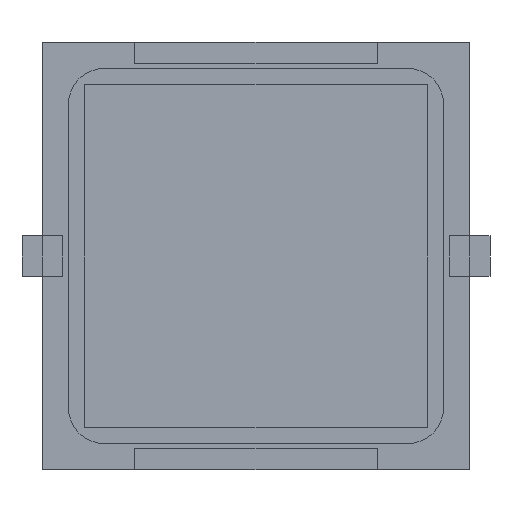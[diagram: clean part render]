
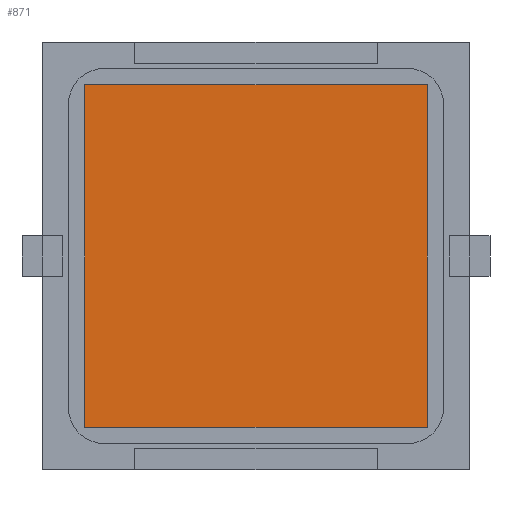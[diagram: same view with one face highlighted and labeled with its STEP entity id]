
A CAD part, front view. The second image highlights one B-rep face of the part: STEP entity #871.
In plain terms, the highlighted planar face has unit normal (0, -1, 0).
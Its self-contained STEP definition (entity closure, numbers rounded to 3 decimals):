
#113 = LINE ( 'NONE', #483, #2180 ) ;
#167 = EDGE_CURVE ( 'NONE', #1344, #2905, #2559, .T. ) ;
#186 = VERTEX_POINT ( 'NONE', #3492 ) ;
#293 = DIRECTION ( 'NONE',  ( 0., 0., 1. ) ) ;
#372 = EDGE_CURVE ( 'NONE', #2905, #1324, #2947, .T. ) ;
#433 = PLANE ( 'NONE',  #1383 ) ;
#483 = CARTESIAN_POINT ( 'NONE',  ( 8.5, -0.1, -8.5 ) ) ;
#572 = VECTOR ( 'NONE', #1731, 1000. ) ;
#871 = ADVANCED_FACE ( 'NONE', ( #4225 ), #433, .F. ) ;
#1000 = ORIENTED_EDGE ( 'NONE', *, *, #372, .F. ) ;
#1096 = ORIENTED_EDGE ( 'NONE', *, *, #167, .F. ) ;
#1175 = CARTESIAN_POINT ( 'NONE',  ( -8.5, -0.1, -8.5 ) ) ;
#1324 = VERTEX_POINT ( 'NONE', #1935 ) ;
#1331 = DIRECTION ( 'NONE',  ( 0., 1., 0. ) ) ;
#1344 = VERTEX_POINT ( 'NONE', #2631 ) ;
#1383 = AXIS2_PLACEMENT_3D ( 'NONE', #3242, #1331, #293 ) ;
#1437 = EDGE_CURVE ( 'NONE', #186, #1344, #113, .T. ) ;
#1527 = ORIENTED_EDGE ( 'NONE', *, *, #1856, .F. ) ;
#1627 = DIRECTION ( 'NONE',  ( 0., 0., -1. ) ) ;
#1731 = DIRECTION ( 'NONE',  ( 0., 0., 1. ) ) ;
#1744 = ORIENTED_EDGE ( 'NONE', *, *, #1437, .F. ) ;
#1781 = CARTESIAN_POINT ( 'NONE',  ( -8.5, -0.1, -8.5 ) ) ;
#1856 = EDGE_CURVE ( 'NONE', #1324, #186, #3613, .T. ) ;
#1935 = CARTESIAN_POINT ( 'NONE',  ( -8.5, -0.1, 8.5 ) ) ;
#1960 = CARTESIAN_POINT ( 'NONE',  ( -8.5, -0.1, -8.5 ) ) ;
#1976 = VECTOR ( 'NONE', #3688, 1000. ) ;
#2067 = VECTOR ( 'NONE', #4232, 1000. ) ;
#2121 = CARTESIAN_POINT ( 'NONE',  ( -8.5, -0.1, 8.5 ) ) ;
#2180 = VECTOR ( 'NONE', #1627, 1000. ) ;
#2559 = LINE ( 'NONE', #1960, #2067 ) ;
#2631 = CARTESIAN_POINT ( 'NONE',  ( 8.5, -0.1, -8.5 ) ) ;
#2905 = VERTEX_POINT ( 'NONE', #1175 ) ;
#2947 = LINE ( 'NONE', #1781, #572 ) ;
#3184 = EDGE_LOOP ( 'NONE', ( #1000, #1096, #1744, #1527 ) ) ;
#3242 = CARTESIAN_POINT ( 'NONE',  ( -8.5, -0.1, 8.5 ) ) ;
#3492 = CARTESIAN_POINT ( 'NONE',  ( 8.5, -0.1, 8.5 ) ) ;
#3613 = LINE ( 'NONE', #2121, #1976 ) ;
#3688 = DIRECTION ( 'NONE',  ( 1., 0., 0. ) ) ;
#4225 = FACE_OUTER_BOUND ( 'NONE', #3184, .T. ) ;
#4232 = DIRECTION ( 'NONE',  ( -1., 0., 0. ) ) ;
